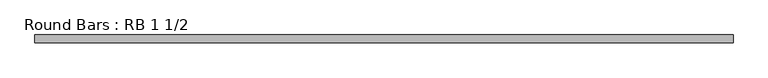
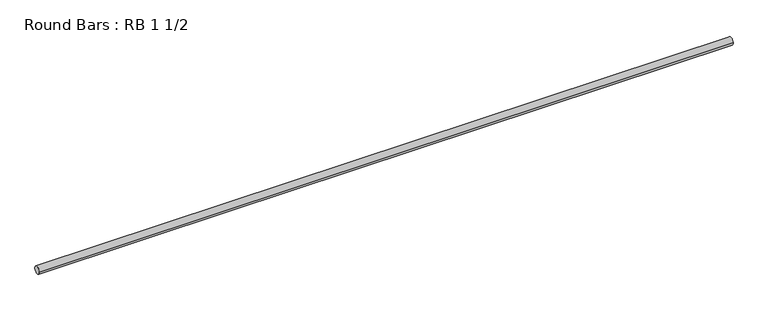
"""IFC4 building model written with IfcOpenShell, lengths in millimetres: member geometry, Round Bars : RB 1 1/2."""

from ifc_helpers import new_model, si_unit, point, frame, origin, origin_2d, place, context, project, spatial, circle_curve, trimmed, segment, composite_curve, outline, extrude, source, transform, mapped, element, save


def round_bars_rb_1_1_2_d34daba2(model_context):
    return source(origin(), model_context, "Body", "SweptSolid", [
        extrude(outline(composite_curve([segment(trimmed(circle_curve(origin_2d(), 19.05), [point((19.05, 0.0))], [point((-19.05, 0.0))], False, "CARTESIAN"), True, "CONTINUOUS"), segment(trimmed(circle_curve(origin_2d(), 19.05), [point((-19.05, 0.0))], [point((19.05, 0.0))], False, "CARTESIAN"), True, "CONTINUOUS")], self_intersect=False)), frame((-1620.9530255, 0.0, 0.0), z_axis=(1.0, 0.0, 0.0), x_axis=(0.0, 1.0, 0.0)), (0.0, 0.0, 1.0), 3433.7079256),
    ])


if __name__ == "__main__":
    model = new_model("IFC4")
    model_context = context("Model", 3, world=origin())
    ifc_project = project(units=[si_unit("LENGTHUNIT", "METRE", prefix="MILLI")], contexts=[model_context])
    site = spatial("IfcSite", under=ifc_project)
    building = spatial("IfcBuilding", under=site)
    placement = place(None, origin())
    round_bars_rb_1_1_2_shape = round_bars_rb_1_1_2_d34daba2(model_context)
    element("IfcMember", 1, ObjectType="Round Bars : RB 1 1/2", at=placement, inside=building, context=model_context, shape_type="MappedRepresentation", body=[
        mapped(round_bars_rb_1_1_2_shape, transform((0.0, 0.0, 0.0), x_axis=(1.0, 0.0, 0.0), y_axis=(0.0, 1.0, 0.0), z_axis=(0.0, 0.0, 1.0))),
    ])
    save(model, "model.ifc")
